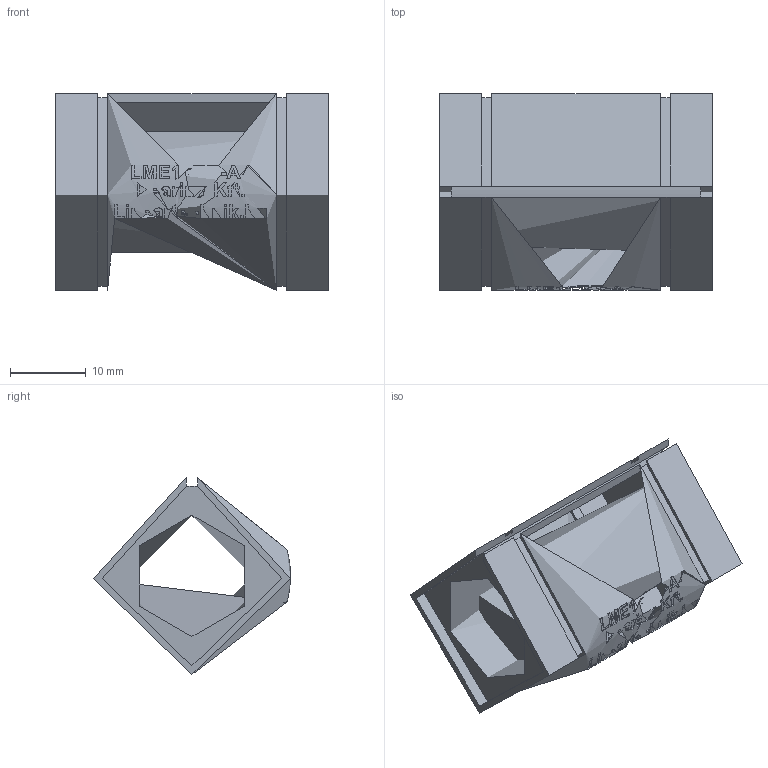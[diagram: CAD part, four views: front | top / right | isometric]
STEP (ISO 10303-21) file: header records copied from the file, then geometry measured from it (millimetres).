
FILE_DESCRIPTION(/* description */ (''),/* implementation_level */ '2;1');
FILE_NAME(/* name */ 'LME16UU-AJ',/* time_stamp */ '2019-07-02T12:05:46+02:00',/* author */ ('VĂ©gh MĂˇtĂ©'),/* organization */ ('Bearing Kft'),/* preprocessor_version */ 'ST-DEVELOPER v16.7',/* originating_system */ 'DEX',/* authorisation */ $);
FILE_SCHEMA (('TECHNICAL_DATA_PACKAGING','AUTOMOTIVE_DESIGN {1 0 10303 214 3 1 1}'));
Length unit declared in the file: millimetre
Products named in the file (1): LME16UU-AJ
Bounding box: 36 x 25.99 x 25.98 mm (x, y, z)
Topology: 0 solids, 3 shells, 344 faces, 877 edges, 586 vertices
Faces by surface type: plane 184, bspline 101, cylinder 59
Full cylindrical faces by diameter (mm): 16 x1, 25.8 x1
Entity records: 16640 total; most frequent: CARTESIAN_POINT 8829, ORIENTED_EDGE 1740, DIRECTION 1322, EDGE_CURVE 870, VERTEX_POINT 581, LINE 496, VECTOR 496, AXIS2_PLACEMENT_3D 413
